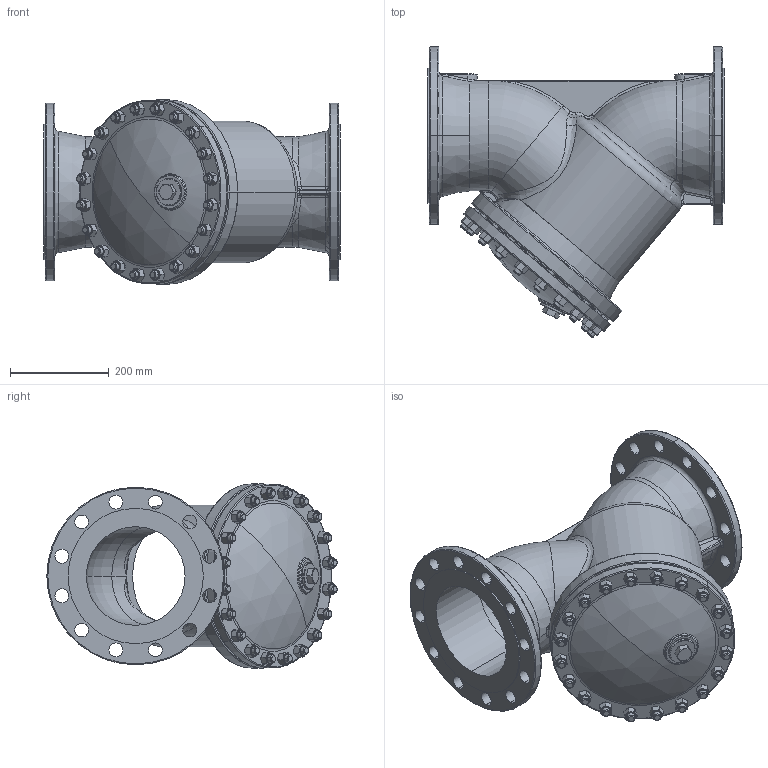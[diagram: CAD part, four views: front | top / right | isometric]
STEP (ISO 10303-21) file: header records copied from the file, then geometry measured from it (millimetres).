
FILE_DESCRIPTION (( 'STEP AP203' ), '1' );
FILE_NAME ('821_DN200_PN25.STEP', '2010-01-13T11:52:19', ( 'Piotr Zlobecki' ), ( 'ZETKAMA SA' ), 'SwSTEP 2.0', 'SolidWorks 2010', '' );
FILE_SCHEMA (( 'CONFIG_CONTROL_DESIGN' ));
Length unit declared in the file: millimetre
Products named in the file (1): 821_DN200_PN25
Bounding box: 600 x 588.24 x 374 mm (x, y, z)
Volume: 14312543.9 mm3; surface area: 1892517.6 mm2
Topology: 43 solids, 43 shells, 1015 faces, 2311 edges, 1398 vertices
Faces by surface type: cylinder 305, cone 268, plane 254, bspline 102, torus 80, sphere 6
Entity records: 77311 total; most frequent: CARTESIAN_POINT 54702, DIRECTION 4679, ORIENTED_EDGE 4610, EDGE_CURVE 2305, AXIS2_PLACEMENT_3D 1980, VERTEX_POINT 1398, EDGE_LOOP 1211, CIRCLE 1066
